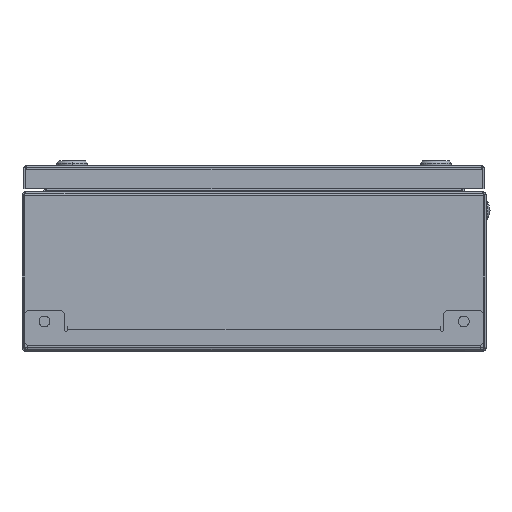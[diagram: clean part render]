
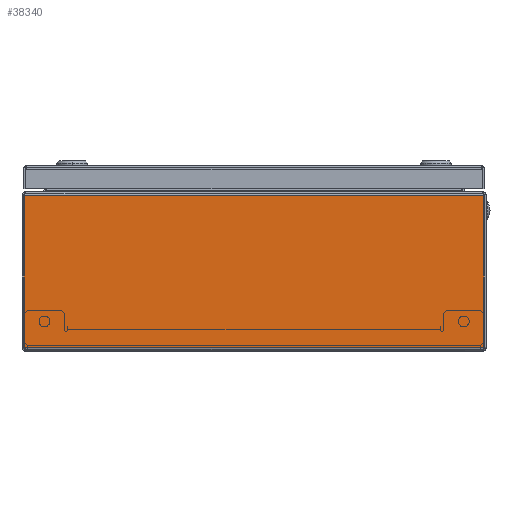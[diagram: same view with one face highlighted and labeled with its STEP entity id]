
A CAD part, left-side view. The second image highlights one B-rep face of the part: STEP entity #38340.
In plain terms, the highlighted planar face has unit normal (-1, 0, 0).
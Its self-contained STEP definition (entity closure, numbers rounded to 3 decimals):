
#3373 = CARTESIAN_POINT ( 'NONE',  ( -300., -148.6, 2.4 ) ) ;
#6217 = CARTESIAN_POINT ( 'NONE',  ( -300., -3150., 100.6 ) ) ;
#8315 = CARTESIAN_POINT ( 'NONE',  ( -300., -148.6, 2.4 ) ) ;
#10325 = ORIENTED_EDGE ( 'NONE', *, *, #114154, .F. ) ;
#11979 = VERTEX_POINT ( 'NONE', #71273 ) ;
#15633 = DIRECTION ( 'NONE',  ( 0., 1., 0. ) ) ;
#26851 = VECTOR ( 'NONE', #37209, 1000. ) ;
#27444 = FACE_OUTER_BOUND ( 'NONE', #128424, .T. ) ;
#37209 = DIRECTION ( 'NONE',  ( 0., 0., 1. ) ) ;
#38340 = ADVANCED_FACE ( 'NONE', ( #27444 ), #88138, .F. ) ;
#38937 = VERTEX_POINT ( 'NONE', #49952 ) ;
#43782 = EDGE_CURVE ( 'NONE', #11979, #38937, #86896, .T. ) ;
#48331 = DIRECTION ( 'NONE',  ( 0., 0., -1. ) ) ;
#49952 = CARTESIAN_POINT ( 'NONE',  ( -300., 148.6, 100.6 ) ) ;
#52944 = LINE ( 'NONE', #3373, #91488 ) ;
#55120 = DIRECTION ( 'NONE',  ( 0., 1., 0. ) ) ;
#56190 = CARTESIAN_POINT ( 'NONE',  ( -300., 148.6, 2.4 ) ) ;
#65141 = AXIS2_PLACEMENT_3D ( 'NONE', #117572, #87524, #48331 ) ;
#65752 = LINE ( 'NONE', #86098, #100062 ) ;
#66251 = VERTEX_POINT ( 'NONE', #8315 ) ;
#71273 = CARTESIAN_POINT ( 'NONE',  ( -300., 148.6, 2.4 ) ) ;
#73516 = ORIENTED_EDGE ( 'NONE', *, *, #125564, .T. ) ;
#79473 = EDGE_CURVE ( 'NONE', #66251, #87479, #52944, .T. ) ;
#84953 = DIRECTION ( 'NONE',  ( 0., 0., 1. ) ) ;
#86098 = CARTESIAN_POINT ( 'NONE',  ( -300., -3150., 2.4 ) ) ;
#86896 = LINE ( 'NONE', #56190, #26851 ) ;
#87479 = VERTEX_POINT ( 'NONE', #106011 ) ;
#87524 = DIRECTION ( 'NONE',  ( 1., 0., 0. ) ) ;
#88138 = PLANE ( 'NONE',  #65141 ) ;
#91488 = VECTOR ( 'NONE', #84953, 1000. ) ;
#96957 = LINE ( 'NONE', #6217, #121911 ) ;
#100062 = VECTOR ( 'NONE', #15633, 1000. ) ;
#106011 = CARTESIAN_POINT ( 'NONE',  ( -300., -148.6, 100.6 ) ) ;
#112023 = ORIENTED_EDGE ( 'NONE', *, *, #79473, .T. ) ;
#114154 = EDGE_CURVE ( 'NONE', #66251, #11979, #65752, .T. ) ;
#117572 = CARTESIAN_POINT ( 'NONE',  ( -300., -3150., 100.6 ) ) ;
#121911 = VECTOR ( 'NONE', #55120, 1000. ) ;
#124892 = ORIENTED_EDGE ( 'NONE', *, *, #43782, .F. ) ;
#125564 = EDGE_CURVE ( 'NONE', #87479, #38937, #96957, .T. ) ;
#128424 = EDGE_LOOP ( 'NONE', ( #112023, #73516, #124892, #10325 ) ) ;
